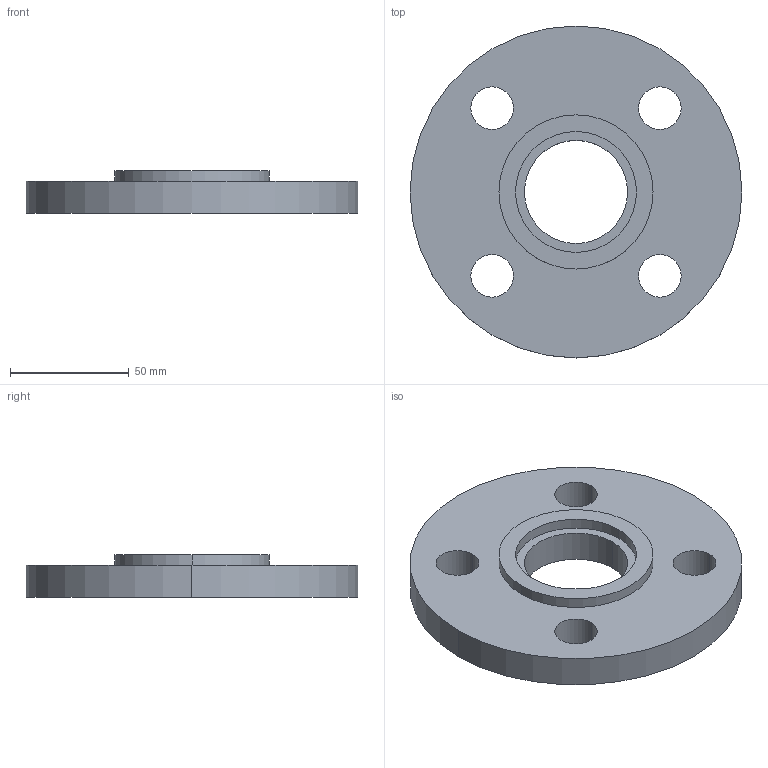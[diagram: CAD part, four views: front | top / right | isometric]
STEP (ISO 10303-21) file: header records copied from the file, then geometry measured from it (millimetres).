
FILE_DESCRIPTION (( 'STEP AP214' ), '1' );
FILE_NAME ('PN40 DN32 Type 01 - Type C Face.STEP', '2018-12-30T00:10:38', ( '' ), ( '' ), 'SwSTEP 2.0', 'SolidWorks 2019', '' );
FILE_SCHEMA (( 'AUTOMOTIVE_DESIGN' ));
Length unit declared in the file: millimetre
Products named in the file (1): PN40 DN32 Type 01 - Type C Face
Bounding box: 140 x 140 x 18 mm (x, y, z)
Volume: 179751.4 mm3; surface area: 38255.6 mm2
Topology: 1 solids, 1 shells, 20 faces, 48 edges, 32 vertices
Faces by surface type: cylinder 16, plane 4
Entity records: 658 total; most frequent: DIRECTION 122, CARTESIAN_POINT 101, ORIENTED_EDGE 96, AXIS2_PLACEMENT_3D 53, EDGE_CURVE 48, VERTEX_POINT 32, EDGE_LOOP 32, CIRCLE 32
